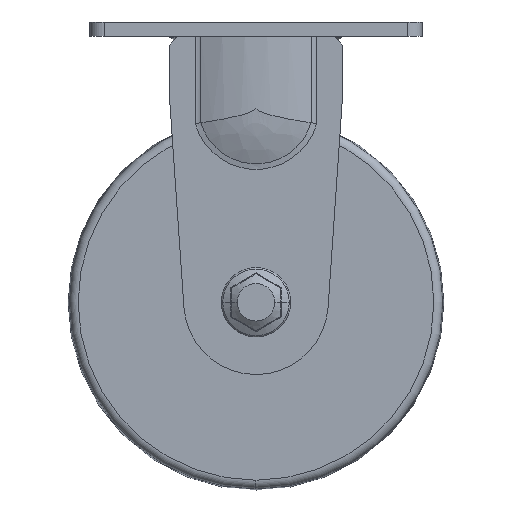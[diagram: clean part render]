
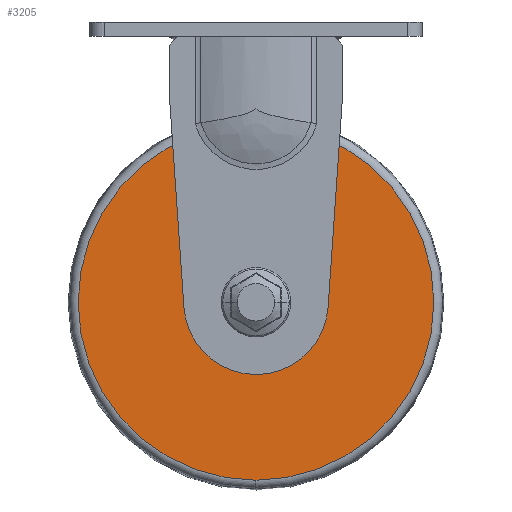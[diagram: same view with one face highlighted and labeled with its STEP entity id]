
A CAD part, front view. The second image highlights one B-rep face of the part: STEP entity #3205.
In plain terms, the highlighted planar face has unit normal (0, -1, 0).
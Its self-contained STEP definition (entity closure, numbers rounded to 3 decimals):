
#215=CARTESIAN_POINT('',(-36.359,-106.785,-50.444));
#216=VERTEX_POINT('',#215);
#225=CARTESIAN_POINT('',(-36.359,-106.785,-173.556));
#226=VERTEX_POINT('',#225);
#234=CARTESIAN_POINT('',(-36.359,-106.785,-112.));
#235=DIRECTION('',(0.0,1.0,0.0));
#236=DIRECTION('',(0.0,0.0,1.0));
#237=AXIS2_PLACEMENT_3D('',#234,#235,#236);
#238=CIRCLE('',#237,61.556);
#239=EDGE_CURVE('',#226,#216,#238,.T.);
#283=CARTESIAN_POINT('',(-36.359,-106.785,-102.));
#284=VERTEX_POINT('',#283);
#293=CARTESIAN_POINT('',(-36.359,-106.785,-122.));
#294=VERTEX_POINT('',#293);
#295=CARTESIAN_POINT('',(-36.359,-106.785,-112.));
#296=DIRECTION('',(0.0,1.0,0.0));
#297=DIRECTION('',(0.0,0.0,1.0));
#298=AXIS2_PLACEMENT_3D('',#295,#296,#297);
#299=CIRCLE('',#298,10.0);
#300=EDGE_CURVE('',#294,#284,#299,.T.);
#3138=CARTESIAN_POINT('',(-36.359,-106.785,-112.));
#3139=DIRECTION('',(0.0,1.0,0.0));
#3140=DIRECTION('',(0.0,0.0,1.0));
#3141=AXIS2_PLACEMENT_3D('',#3138,#3139,#3140);
#3142=CIRCLE('',#3141,10.0);
#3143=EDGE_CURVE('',#284,#294,#3142,.T.);
#3186=CARTESIAN_POINT('',(-36.359,-106.785,-76.222));
#3187=DIRECTION('',(0.0,-1.0,0.0));
#3188=DIRECTION('',(0.0,0.0,-1.0));
#3189=AXIS2_PLACEMENT_3D('',#3186,#3187,#3188);
#3190=PLANE('',#3189);
#3191=CARTESIAN_POINT('',(-36.359,-106.785,-112.));
#3192=DIRECTION('',(0.0,1.0,0.0));
#3193=DIRECTION('',(0.0,0.0,1.0));
#3194=AXIS2_PLACEMENT_3D('',#3191,#3192,#3193);
#3195=CIRCLE('',#3194,61.556);
#3196=EDGE_CURVE('',#216,#226,#3195,.T.);
#3197=ORIENTED_EDGE('',*,*,#3196,.F.);
#3198=ORIENTED_EDGE('',*,*,#239,.F.);
#3199=EDGE_LOOP('',(#3197,#3198));
#3200=FACE_OUTER_BOUND('',#3199,.T.);
#3201=ORIENTED_EDGE('',*,*,#3143,.T.);
#3202=ORIENTED_EDGE('',*,*,#300,.T.);
#3203=EDGE_LOOP('',(#3201,#3202));
#3204=FACE_BOUND('',#3203,.T.);
#3205=ADVANCED_FACE('',(#3200,#3204),#3190,.T.);
